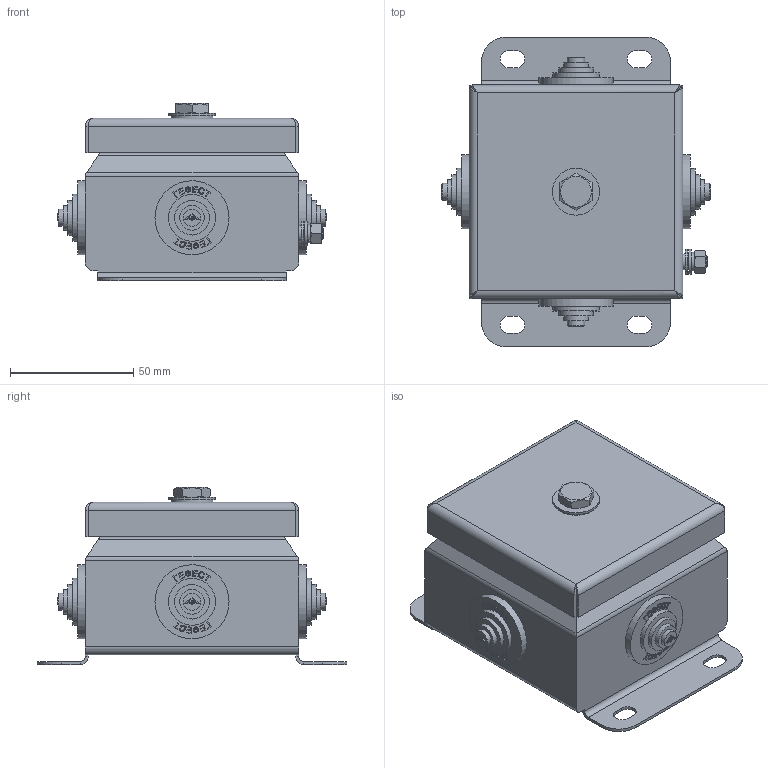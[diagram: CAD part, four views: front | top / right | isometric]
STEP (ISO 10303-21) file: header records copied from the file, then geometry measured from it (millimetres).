
FILE_DESCRIPTION(('STEP AP203'), '1');
FILE_NAME('Êîðîáêà 0808 IP55', '', ('UNSPECIFIED'), ('UNSPECIFIED'), 'ASCON STEP Converter 1.6', 'ASCON Math Kernel', '');
FILE_SCHEMA(('CONFIG_CONTROL_DESIGN'));
Length unit declared in the file: millimetre
Bounding box: 109 x 125.5 x 71.7 mm (x, y, z)
Volume: 457464.4 mm3; surface area: 55217.9 mm2
Topology: 1 solids, 1 shells, 891 faces, 2278 edges, 1491 vertices
Faces by surface type: plane 645, extrusion 144, cylinder 81, cone 11, bspline 8, torus 2
Full cylindrical faces by diameter (mm): 3.7 x1, 5 x2, 5.5 x2, 6.5 x1, 7 x4, 10 x6, 14 x4, 17 x1, 19 x5, 30 x4
Entity records: 36495 total; most frequent: CARTESIAN_POINT 8512, ORIENTED_EDGE 4482, DIRECTION 3624, EDGE_CURVE 2241, VECTOR 1878, LINE 1734, VERTEX_POINT 1491, EDGE_LOOP 1040
